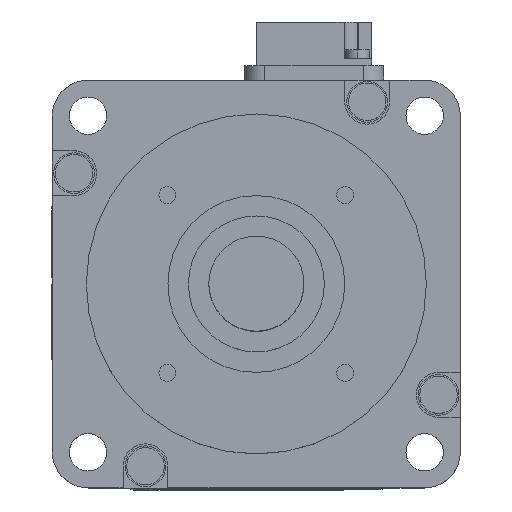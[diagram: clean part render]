
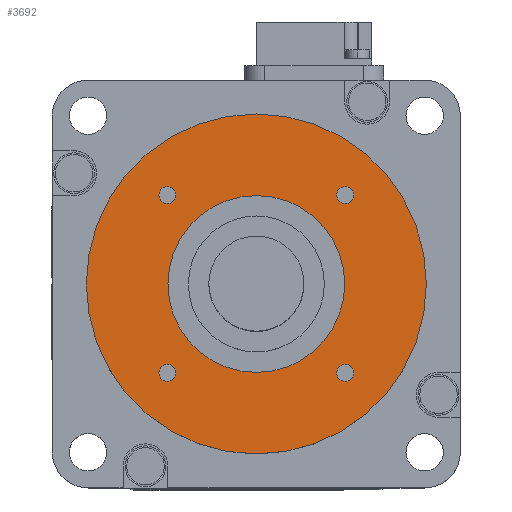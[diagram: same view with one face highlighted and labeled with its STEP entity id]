
A CAD part, top view. The second image highlights one B-rep face of the part: STEP entity #3692.
In plain terms, the highlighted planar face has unit normal (0, 0, 1).
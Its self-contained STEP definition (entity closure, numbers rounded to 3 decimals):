
#2069 = VERTEX_POINT ( 'NONE', #8391 ) ;
#2077 = VERTEX_POINT ( 'NONE', #8378 ) ;
#2096 = EDGE_CURVE ( 'NONE', #2100, #2102, #8410, .T. ) ;
#2100 = VERTEX_POINT ( 'NONE', #8460 ) ;
#2102 = VERTEX_POINT ( 'NONE', #8459 ) ;
#2106 = EDGE_CURVE ( 'NONE', #2120, #2107, #8447, .T. ) ;
#2107 = VERTEX_POINT ( 'NONE', #8443 ) ;
#2120 = VERTEX_POINT ( 'NONE', #8482 ) ;
#2122 = EDGE_CURVE ( 'NONE', #2077, #2123, #8481, .T. ) ;
#2123 = VERTEX_POINT ( 'NONE', #8476 ) ;
#2166 = EDGE_CURVE ( 'NONE', #2169, #2069, #8584, .T. ) ;
#2169 = VERTEX_POINT ( 'NONE', #8576 ) ;
#2227 = EDGE_CURVE ( 'NONE', #2228, #2229, #8661, .T. ) ;
#2228 = VERTEX_POINT ( 'NONE', #8718 ) ;
#2229 = VERTEX_POINT ( 'NONE', #8717 ) ;
#3666 = EDGE_CURVE ( 'NONE', #5011, #5010, #11287, .T. ) ;
#3675 = ORIENTED_EDGE ( 'NONE', *, *, #2096, .F. ) ;
#3676 = EDGE_LOOP ( 'NONE', ( #3677, #3679 ) ) ;
#3677 = ORIENTED_EDGE ( 'NONE', *, *, #3678, .F. ) ;
#3678 = EDGE_CURVE ( 'NONE', #2107, #2120, #11331, .T. ) ;
#3679 = ORIENTED_EDGE ( 'NONE', *, *, #2106, .F. ) ;
#3680 = EDGE_LOOP ( 'NONE', ( #3681, #3683 ) ) ;
#3681 = ORIENTED_EDGE ( 'NONE', *, *, #3682, .F. ) ;
#3682 = EDGE_CURVE ( 'NONE', #2123, #2077, #11326, .T. ) ;
#3683 = ORIENTED_EDGE ( 'NONE', *, *, #2122, .F. ) ;
#3684 = EDGE_LOOP ( 'NONE', ( #3685, #15802 ) ) ;
#3685 = ORIENTED_EDGE ( 'NONE', *, *, #3686, .T. ) ;
#3686 = EDGE_CURVE ( 'NONE', #2229, #2228, #11321, .T. ) ;
#3692 = ADVANCED_FACE ( 'NONE', ( #11379, #11378, #11377, #11376, #11375, #11374 ), #11373, .T. ) ;
#3693 = EDGE_LOOP ( 'NONE', ( #3694, #3696 ) ) ;
#3694 = ORIENTED_EDGE ( 'NONE', *, *, #3695, .F. ) ;
#3695 = EDGE_CURVE ( 'NONE', #2069, #2169, #11368, .T. ) ;
#3696 = ORIENTED_EDGE ( 'NONE', *, *, #2166, .F. ) ;
#3697 = EDGE_LOOP ( 'NONE', ( #3698, #3675 ) ) ;
#3698 = ORIENTED_EDGE ( 'NONE', *, *, #3699, .F. ) ;
#3699 = EDGE_CURVE ( 'NONE', #2102, #2100, #11363, .T. ) ;
#5009 = EDGE_CURVE ( 'NONE', #5010, #5011, #14282, .T. ) ;
#5010 = VERTEX_POINT ( 'NONE', #14277 ) ;
#5011 = VERTEX_POINT ( 'NONE', #14276 ) ;
#8378 = CARTESIAN_POINT ( 'NONE',  ( 11.831, 13.081, 3. ) ) ;
#8391 = CARTESIAN_POINT ( 'NONE',  ( 14.331, -13.081, 3. ) ) ;
#8406 = DIRECTION ( 'NONE',  ( -1., 0., 0. ) ) ;
#8407 = DIRECTION ( 'NONE',  ( 0., 0., 1. ) ) ;
#8408 = CARTESIAN_POINT ( 'NONE',  ( -13.081, -13.081, 3. ) ) ;
#8409 = AXIS2_PLACEMENT_3D ( 'NONE', #8408, #8407, #8406 ) ;
#8410 = CIRCLE ( 'NONE', #8409, 1.25 ) ;
#8443 = CARTESIAN_POINT ( 'NONE',  ( -11.831, 13.081, 3. ) ) ;
#8444 = DIRECTION ( 'NONE',  ( 0., 1., 0. ) ) ;
#8445 = DIRECTION ( 'NONE',  ( 0., 0., 1. ) ) ;
#8446 = AXIS2_PLACEMENT_3D ( 'NONE', #8452, #8445, #8444 ) ;
#8447 = CIRCLE ( 'NONE', #8446, 1.25 ) ;
#8452 = CARTESIAN_POINT ( 'NONE',  ( -13.081, 13.081, 3. ) ) ;
#8459 = CARTESIAN_POINT ( 'NONE',  ( -11.831, -13.081, 3. ) ) ;
#8460 = CARTESIAN_POINT ( 'NONE',  ( -14.331, -13.081, 3. ) ) ;
#8476 = CARTESIAN_POINT ( 'NONE',  ( 14.331, 13.081, 3. ) ) ;
#8477 = DIRECTION ( 'NONE',  ( 1., 0., 0. ) ) ;
#8478 = DIRECTION ( 'NONE',  ( 0., 0., 1. ) ) ;
#8479 = CARTESIAN_POINT ( 'NONE',  ( 13.081, 13.081, 3. ) ) ;
#8480 = AXIS2_PLACEMENT_3D ( 'NONE', #8479, #8478, #8477 ) ;
#8481 = CIRCLE ( 'NONE', #8480, 1.25 ) ;
#8482 = CARTESIAN_POINT ( 'NONE',  ( -14.331, 13.081, 3. ) ) ;
#8576 = CARTESIAN_POINT ( 'NONE',  ( 11.831, -13.081, 3. ) ) ;
#8580 = DIRECTION ( 'NONE',  ( 0., -1., 0. ) ) ;
#8581 = DIRECTION ( 'NONE',  ( 0., 0., 1. ) ) ;
#8582 = CARTESIAN_POINT ( 'NONE',  ( 13.081, -13.081, 3. ) ) ;
#8583 = AXIS2_PLACEMENT_3D ( 'NONE', #8582, #8581, #8580 ) ;
#8584 = CIRCLE ( 'NONE', #8583, 1.25 ) ;
#8661 = CIRCLE ( 'NONE', #8721, 13. ) ;
#8666 = CARTESIAN_POINT ( 'NONE',  ( 0., 0., 3. ) ) ;
#8717 = CARTESIAN_POINT ( 'NONE',  ( -13., 0., 3. ) ) ;
#8718 = CARTESIAN_POINT ( 'NONE',  ( 13., 0., 3. ) ) ;
#8719 = DIRECTION ( 'NONE',  ( -1., 0., 0. ) ) ;
#8720 = DIRECTION ( 'NONE',  ( 0., 0., -1. ) ) ;
#8721 = AXIS2_PLACEMENT_3D ( 'NONE', #8666, #8720, #8719 ) ;
#11284 = DIRECTION ( 'NONE',  ( 0., 0., -1. ) ) ;
#11285 = CARTESIAN_POINT ( 'NONE',  ( 0., 0., 3. ) ) ;
#11286 = AXIS2_PLACEMENT_3D ( 'NONE', #11285, #11284, #11345 ) ;
#11287 = CIRCLE ( 'NONE', #11286, 25. ) ;
#11317 = DIRECTION ( 'NONE',  ( -1., 0., 0. ) ) ;
#11318 = DIRECTION ( 'NONE',  ( 0., 0., -1. ) ) ;
#11319 = CARTESIAN_POINT ( 'NONE',  ( 0., 0., 3. ) ) ;
#11320 = AXIS2_PLACEMENT_3D ( 'NONE', #11319, #11318, #11317 ) ;
#11321 = CIRCLE ( 'NONE', #11320, 13. ) ;
#11322 = DIRECTION ( 'NONE',  ( 1., 0., 0. ) ) ;
#11323 = DIRECTION ( 'NONE',  ( 0., 0., 1. ) ) ;
#11324 = CARTESIAN_POINT ( 'NONE',  ( 13.081, 13.081, 3. ) ) ;
#11325 = AXIS2_PLACEMENT_3D ( 'NONE', #11324, #11323, #11322 ) ;
#11326 = CIRCLE ( 'NONE', #11325, 1.25 ) ;
#11327 = DIRECTION ( 'NONE',  ( 0., 1., 0. ) ) ;
#11328 = DIRECTION ( 'NONE',  ( 0., 0., 1. ) ) ;
#11329 = CARTESIAN_POINT ( 'NONE',  ( -13.081, 13.081, 3. ) ) ;
#11330 = AXIS2_PLACEMENT_3D ( 'NONE', #11329, #11328, #11327 ) ;
#11331 = CIRCLE ( 'NONE', #11330, 1.25 ) ;
#11345 = DIRECTION ( 'NONE',  ( -1., 0., 0. ) ) ;
#11359 = DIRECTION ( 'NONE',  ( -1., 0., 0. ) ) ;
#11360 = DIRECTION ( 'NONE',  ( 0., 0., 1. ) ) ;
#11361 = CARTESIAN_POINT ( 'NONE',  ( -13.081, -13.081, 3. ) ) ;
#11362 = AXIS2_PLACEMENT_3D ( 'NONE', #11361, #11360, #11359 ) ;
#11363 = CIRCLE ( 'NONE', #11362, 1.25 ) ;
#11364 = DIRECTION ( 'NONE',  ( 0., -1., 0. ) ) ;
#11365 = DIRECTION ( 'NONE',  ( 0., 0., 1. ) ) ;
#11366 = CARTESIAN_POINT ( 'NONE',  ( 13.081, -13.081, 3. ) ) ;
#11367 = AXIS2_PLACEMENT_3D ( 'NONE', #11366, #11365, #11364 ) ;
#11368 = CIRCLE ( 'NONE', #11367, 1.25 ) ;
#11369 = DIRECTION ( 'NONE',  ( 1., 0., 0. ) ) ;
#11370 = DIRECTION ( 'NONE',  ( 0., 0., 1. ) ) ;
#11371 = CARTESIAN_POINT ( 'NONE',  ( 0., 25., 3. ) ) ;
#11372 = AXIS2_PLACEMENT_3D ( 'NONE', #11371, #11370, #11369 ) ;
#11373 = PLANE ( 'NONE',  #11372 ) ;
#11374 = FACE_OUTER_BOUND ( 'NONE', #15801, .T. ) ;
#11375 = FACE_BOUND ( 'NONE', #3684, .T. ) ;
#11376 = FACE_BOUND ( 'NONE', #3680, .T. ) ;
#11377 = FACE_BOUND ( 'NONE', #3676, .T. ) ;
#11378 = FACE_BOUND ( 'NONE', #3697, .T. ) ;
#11379 = FACE_BOUND ( 'NONE', #3693, .T. ) ;
#14276 = CARTESIAN_POINT ( 'NONE',  ( 25., 0., 3. ) ) ;
#14277 = CARTESIAN_POINT ( 'NONE',  ( -25., 0., 3. ) ) ;
#14278 = DIRECTION ( 'NONE',  ( -1., 0., 0. ) ) ;
#14279 = DIRECTION ( 'NONE',  ( 0., 0., -1. ) ) ;
#14280 = CARTESIAN_POINT ( 'NONE',  ( 0., 0., 3. ) ) ;
#14281 = AXIS2_PLACEMENT_3D ( 'NONE', #14280, #14279, #14278 ) ;
#14282 = CIRCLE ( 'NONE', #14281, 25. ) ;
#15795 = ORIENTED_EDGE ( 'NONE', *, *, #3666, .F. ) ;
#15798 = ORIENTED_EDGE ( 'NONE', *, *, #5009, .F. ) ;
#15801 = EDGE_LOOP ( 'NONE', ( #15798, #15795 ) ) ;
#15802 = ORIENTED_EDGE ( 'NONE', *, *, #2227, .T. ) ;
